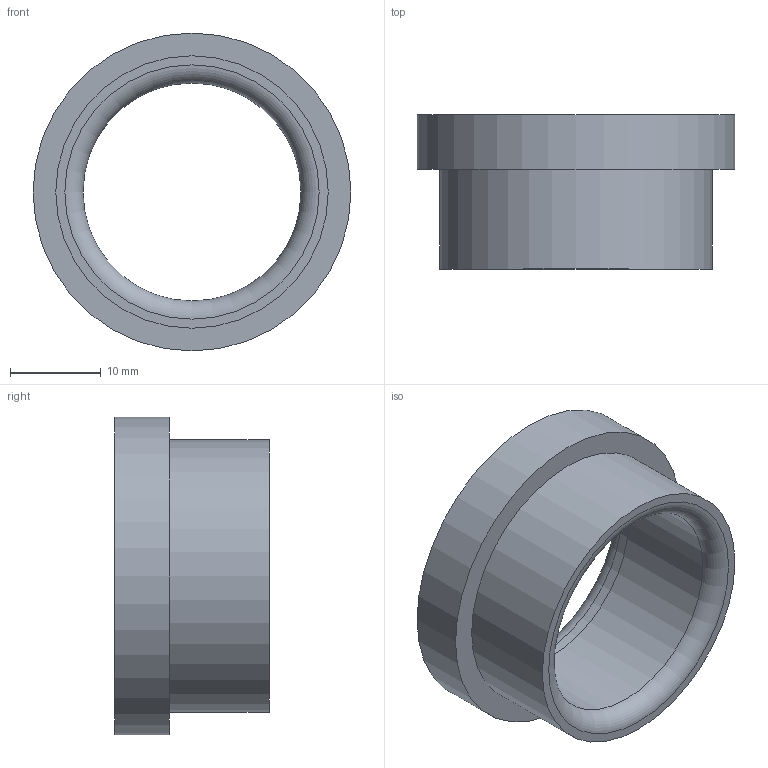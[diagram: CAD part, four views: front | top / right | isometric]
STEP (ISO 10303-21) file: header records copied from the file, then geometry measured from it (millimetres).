
FILE_DESCRIPTION(/* description */ ('STEP AP214'),/* implementation_level */ '2;1');
FILE_NAME(/* name */ '03_12_17932',/* time_stamp */ '2023-06-15T11:35:34+02:00',/* author */ ('License CC BY-ND 4.0'),/* organization */ ('CADENAS'),/* preprocessor_version */ 'ST-DEVELOPER v19.3',/* originating_system */ 'PARTsolutions',/* authorisation */ ' ');
FILE_SCHEMA (('AUTOMOTIVE_DESIGN {1 0 10303 214 3 1 1}'));
Length unit declared in the file: millimetre
Products named in the file (1): VA_Bushing_17932
Bounding box: 35 x 17 x 35 mm (x, y, z)
Volume: 5643.8 mm3; surface area: 3876.6 mm2
Topology: 1 solids, 1 shells, 10 faces, 16 edges, 10 vertices
Faces by surface type: cylinder 4, plane 4, torus 2
Full cylindrical faces by diameter (mm): 24 x1, 24.6 x1, 30 x1, 35 x1
Entity records: 302 total; most frequent: DIRECTION 42, CARTESIAN_POINT 31, AXIS2_PLACEMENT_3D 21, ORIENTED_EDGE 20, EDGE_LOOP 20, FACE_BOUND 20, EDGE_CURVE 10, VERTEX_POINT 10
